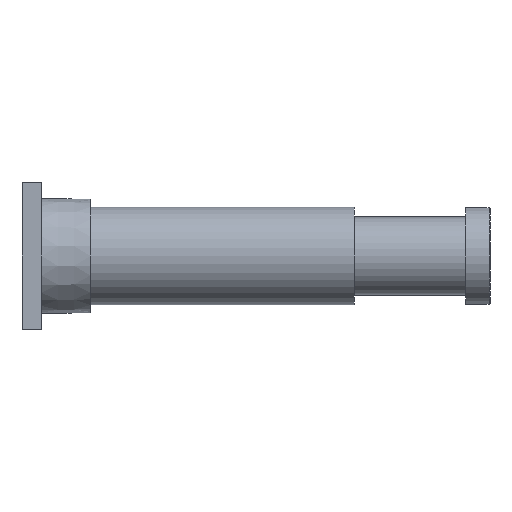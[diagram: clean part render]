
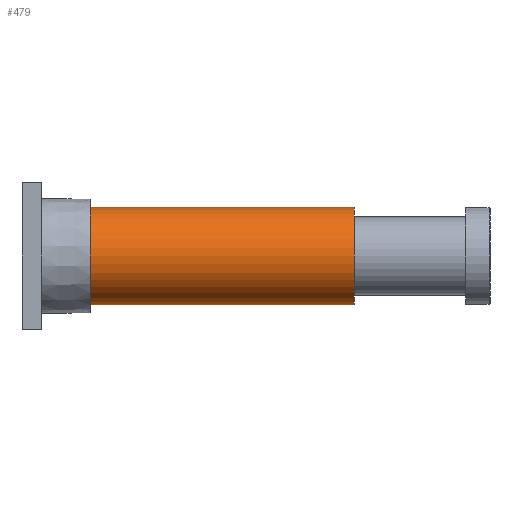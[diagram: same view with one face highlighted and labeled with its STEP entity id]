
A CAD part, front view. The second image highlights one B-rep face of the part: STEP entity #479.
In plain terms, the highlighted cylindrical face has radius 50 mm (diameter 100 mm), a partial arc.
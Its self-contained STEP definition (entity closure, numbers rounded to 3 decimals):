
#33 = CARTESIAN_POINT ( 'NONE',  ( 50., 0., 0. ) ) ;
#38 = DIRECTION ( 'NONE',  ( 1., 0., 0. ) ) ;
#41 = DIRECTION ( 'NONE',  ( 0., 0., 1. ) ) ;
#49 = LINE ( 'NONE', #381, #724 ) ;
#68 = CARTESIAN_POINT ( 'NONE',  ( 320., 0., 50. ) ) ;
#104 = DIRECTION ( 'NONE',  ( 0., 0., 1. ) ) ;
#119 = LINE ( 'NONE', #705, #326 ) ;
#216 = EDGE_CURVE ( 'NONE', #875, #1149, #943, .T. ) ;
#280 = CARTESIAN_POINT ( 'NONE',  ( 50., 0., 50. ) ) ;
#287 = VERTEX_POINT ( 'NONE', #673 ) ;
#292 = ORIENTED_EDGE ( 'NONE', *, *, #448, .T. ) ;
#297 = CARTESIAN_POINT ( 'NONE',  ( 320., 0., 0. ) ) ;
#320 = EDGE_CURVE ( 'NONE', #1149, #546, #119, .T. ) ;
#326 = VECTOR ( 'NONE', #1188, 1000. ) ;
#334 = CYLINDRICAL_SURFACE ( 'NONE', #1067, 50. ) ;
#350 = DIRECTION ( 'NONE',  ( -1., 0., 0. ) ) ;
#361 = DIRECTION ( 'NONE',  ( -1., 0., 0. ) ) ;
#370 = AXIS2_PLACEMENT_3D ( 'NONE', #493, #496, #513 ) ;
#381 = CARTESIAN_POINT ( 'NONE',  ( 320., 0., -50. ) ) ;
#448 = EDGE_CURVE ( 'NONE', #546, #287, #658, .T. ) ;
#479 = ADVANCED_FACE ( 'NONE', ( #1114 ), #334, .T. ) ;
#493 = CARTESIAN_POINT ( 'NONE',  ( 320., 0., 0. ) ) ;
#494 = ORIENTED_EDGE ( 'NONE', *, *, #577, .F. ) ;
#496 = DIRECTION ( 'NONE',  ( -1., 0., 0. ) ) ;
#513 = DIRECTION ( 'NONE',  ( 0., 0., 1. ) ) ;
#546 = VERTEX_POINT ( 'NONE', #280 ) ;
#577 = EDGE_CURVE ( 'NONE', #875, #287, #49, .T. ) ;
#658 = CIRCLE ( 'NONE', #797, 50. ) ;
#673 = CARTESIAN_POINT ( 'NONE',  ( 50., 0., -50. ) ) ;
#705 = CARTESIAN_POINT ( 'NONE',  ( 320., 0., 50. ) ) ;
#724 = VECTOR ( 'NONE', #350, 1000. ) ;
#761 = ORIENTED_EDGE ( 'NONE', *, *, #320, .T. ) ;
#797 = AXIS2_PLACEMENT_3D ( 'NONE', #33, #38, #41 ) ;
#815 = ORIENTED_EDGE ( 'NONE', *, *, #216, .T. ) ;
#853 = EDGE_LOOP ( 'NONE', ( #494, #815, #761, #292 ) ) ;
#856 = CARTESIAN_POINT ( 'NONE',  ( 320., 0., -50. ) ) ;
#875 = VERTEX_POINT ( 'NONE', #856 ) ;
#943 = CIRCLE ( 'NONE', #370, 50. ) ;
#1067 = AXIS2_PLACEMENT_3D ( 'NONE', #297, #361, #104 ) ;
#1114 = FACE_OUTER_BOUND ( 'NONE', #853, .T. ) ;
#1149 = VERTEX_POINT ( 'NONE', #68 ) ;
#1188 = DIRECTION ( 'NONE',  ( -1., 0., 0. ) ) ;
